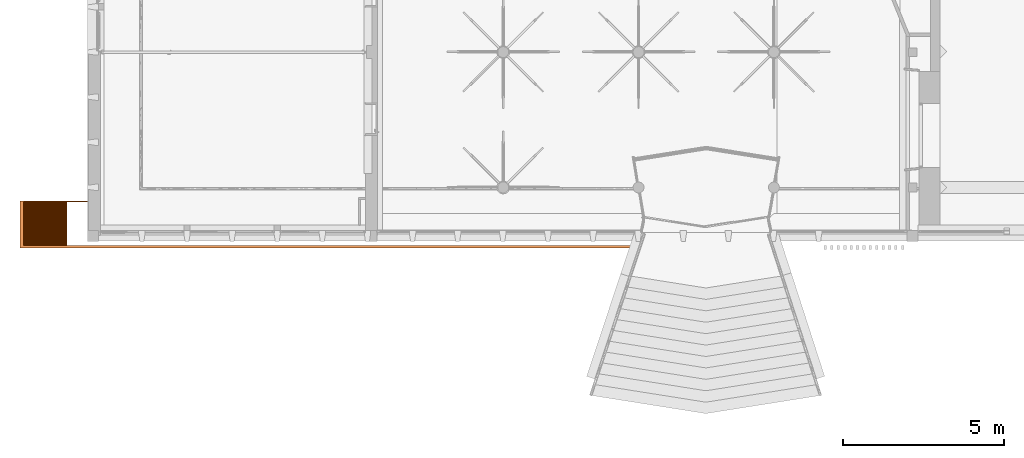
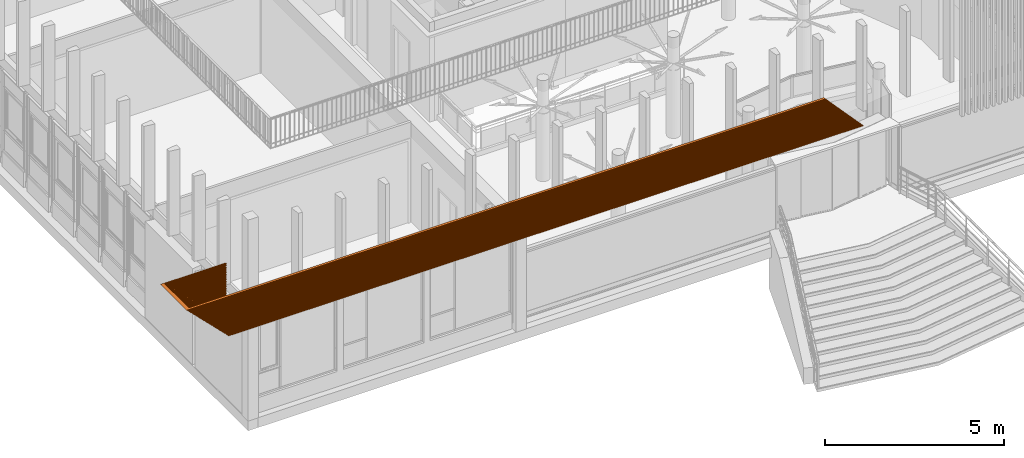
# One storey, part 65 of 65: 1 proxy.
"""IFC4 building model written with IfcOpenShell, lengths in metres."""

from ifc_helpers import new_model, entity, si_unit, converted_unit, derived_unit, direction, frame, origin, place, context, subcontext, project, spatial, polygons, source, transform, mapped, material, type_object, type_shapes, element, save


model = new_model("IFC4")

# Units and contexts
model_context = context("Model", 3, precision=1e-05, world=origin(), true_north=direction((6.12303176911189e-17, 1.0)))
body_context = subcontext(model_context, "Body", "Model", "MODEL_VIEW")
ifc_project = project(units=[si_unit("LENGTHUNIT", "METRE"), si_unit("AREAUNIT", "SQUARE_METRE"), si_unit("VOLUMEUNIT", "CUBIC_METRE"), converted_unit("PLANEANGLEUNIT", "DEGREE", entity("IfcRatioMeasure", 0.0174532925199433), si_unit("PLANEANGLEUNIT", "RADIAN"), dimensions=[0, 0, 0, 0, 0, 0, 0]), si_unit("MASSUNIT", "GRAM", prefix="KILO"), derived_unit("MASSDENSITYUNIT", [(si_unit("MASSUNIT", "GRAM", prefix="KILO"), 1), (si_unit("LENGTHUNIT", "METRE"), -3)]), derived_unit("MOMENTOFINERTIAUNIT", [(si_unit("LENGTHUNIT", "METRE"), 4)]), si_unit("TIMEUNIT", "SECOND"), si_unit("FREQUENCYUNIT", "HERTZ"), si_unit("THERMODYNAMICTEMPERATUREUNIT", "DEGREE_CELSIUS"), derived_unit("THERMALTRANSMITTANCEUNIT", [(si_unit("MASSUNIT", "GRAM", prefix="KILO"), 1), (si_unit("THERMODYNAMICTEMPERATUREUNIT", "KELVIN"), -1), (si_unit("TIMEUNIT", "SECOND"), -3)]), derived_unit("VOLUMETRICFLOWRATEUNIT", [(si_unit("LENGTHUNIT", "METRE"), 3), (si_unit("TIMEUNIT", "SECOND"), -1)]), si_unit("ELECTRICCURRENTUNIT", "AMPERE"), si_unit("ELECTRICVOLTAGEUNIT", "VOLT"), si_unit("POWERUNIT", "WATT"), si_unit("FORCEUNIT", "NEWTON", prefix="KILO"), si_unit("ILLUMINANCEUNIT", "LUX"), si_unit("LUMINOUSFLUXUNIT", "LUMEN"), si_unit("LUMINOUSINTENSITYUNIT", "CANDELA"), derived_unit("USERDEFINED", [(si_unit("MASSUNIT", "GRAM", prefix="KILO"), -1), (si_unit("LENGTHUNIT", "METRE"), -2), (si_unit("TIMEUNIT", "SECOND"), 3), (si_unit("LUMINOUSFLUXUNIT", "LUMEN"), 1)]), derived_unit("LINEARVELOCITYUNIT", [(si_unit("LENGTHUNIT", "METRE"), 1), (si_unit("TIMEUNIT", "SECOND"), -1)]), si_unit("PRESSUREUNIT", "PASCAL"), derived_unit("USERDEFINED", [(si_unit("LENGTHUNIT", "METRE"), -2), (si_unit("MASSUNIT", "GRAM", prefix="KILO"), 1), (si_unit("TIMEUNIT", "SECOND"), -2)]), derived_unit("LINEARFORCEUNIT", [(si_unit("MASSUNIT", "GRAM", prefix="KILO"), 1), (si_unit("LENGTHUNIT", "METRE"), 1), (si_unit("TIMEUNIT", "SECOND"), -2), (si_unit("LENGTHUNIT", "METRE"), -1)]), derived_unit("PLANARFORCEUNIT", [(si_unit("MASSUNIT", "GRAM", prefix="KILO"), 1), (si_unit("LENGTHUNIT", "METRE"), 1), (si_unit("TIMEUNIT", "SECOND"), -2), (si_unit("LENGTHUNIT", "METRE"), -2)])], contexts=[model_context])

# Site, building, storey
site_placement = place(None, origin())
site = spatial("IfcSite", under=ifc_project, at=site_placement, Name="Default", CompositionType="ELEMENT")
building_placement = place(site_placement, origin())
building = spatial("IfcBuilding", under=site, at=building_placement, Name="HOTEL CONSULAIRE BOULOGNE SUR MER", CompositionType="ELEMENT")
storey_placement = place(building_placement, origin())
storey = spatial("IfcBuildingStorey", under=building, at=storey_placement, Name="Niveau 0", CompositionType="ELEMENT", Elevation=1.31981936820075e-13)

# Proxy
ifc_material = material(Name="alu finifion bleu")
building_element_proxy_type = type_object("IfcBuildingElementProxyType", Name="eléments de façade 3:eléments de façade 3", PredefinedType="NOTDEFINED", material=ifc_material)
shared_shape = source(origin(), body_context, "Body", "Tessellation", [
    polygons([(21.7828581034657, 0.0791437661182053, 0.0300000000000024), (21.8101751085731, 0.0791437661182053, 5.41433564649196e-16), (1.4624379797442, 0.0791437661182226, 0.0), (1.4324379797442, 0.0791437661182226, 0.0300000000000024), (2.09950853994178, 1.4652947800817, 0.0), (2.09950853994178, 1.4652947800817, 0.0300000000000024), (2.09950853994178, 1.42731639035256, 0.0300000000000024), (2.09950853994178, 1.42731639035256, 0.0), (1.4324379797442, 1.42731639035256, 0.0300000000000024), (1.46243797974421, 1.42731639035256, 0.0), (1.32000000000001, 8.66293703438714e-14, 0.0300000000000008), (1.35000000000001, 8.66293703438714e-14, 0.0), (21.8101751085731, 0.0, 0.0), (21.7828581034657, 0.0, 0.0300000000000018), (1.35000000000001, 1.4652947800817, 0.0), (1.32000000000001, 1.4652947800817, 0.0300000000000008)], [[[3, 4, 1, 2]], [[6, 5, 15, 16]], [[8, 5, 6, 7]], [[7, 9, 10, 8]], [[11, 12, 13, 14]], [[12, 11, 16, 15]], [[12, 15, 5, 8, 10, 3, 2, 13]], [[14, 13, 2, 1]], [[14, 1, 4, 9, 7, 6, 16, 11]], [[4, 3, 10, 9]]], closed=True),
    polygons([(20.5809098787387, 4.33146851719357e-15, 1.35000000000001), (2.16573425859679e-15, 9.0960838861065e-14, 1.35000000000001), (0.0300000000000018, 9.0960838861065e-14, 1.32000000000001), (20.6082268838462, 4.33146851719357e-15, 1.32000000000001), (0.0300000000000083, 1.46529478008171, 1.32000000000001), (6.49720277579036e-15, 1.46529478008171, 1.35000000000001), (2.09950853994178, 1.4652947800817, 1.35000000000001), (2.09950853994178, 1.4652947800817, 1.32000000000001), (0.142437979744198, 1.42731639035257, 1.32000000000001), (0.112437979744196, 1.42731639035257, 1.35000000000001), (0.112437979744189, 0.079143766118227, 1.35000000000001), (0.142437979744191, 0.079143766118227, 1.32000000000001), (20.5809098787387, 0.0791437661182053, 1.35000000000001), (2.09950853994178, 1.42731639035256, 1.35000000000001), (2.09950853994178, 1.42731639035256, 1.32000000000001), (20.6082268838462, 0.0791437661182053, 1.32000000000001)], [[[2, 3, 4, 1]], [[14, 10, 9, 15]], [[7, 8, 5, 6]], [[12, 11, 13, 16]], [[12, 9, 10, 11]], [[1, 13, 11, 10, 14, 7, 6, 2]], [[3, 2, 6, 5]], [[3, 5, 8, 15, 9, 12, 16, 4]], [[1, 4, 16, 13]], [[15, 8, 7, 14]]], closed=True),
    polygons([(20.6355438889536, 4.33146851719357e-15, 1.29000000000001), (0.0600000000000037, 9.0960838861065e-14, 1.29000000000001), (0.0900000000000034, 9.0960838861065e-14, 1.26000000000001), (20.662860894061, 4.33146851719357e-15, 1.26000000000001), (0.0900000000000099, 1.46529478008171, 1.26000000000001), (0.0600000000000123, 1.46529478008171, 1.29000000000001), (2.09950853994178, 1.4652947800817, 1.29000000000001), (2.09950853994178, 1.4652947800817, 1.26000000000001), (20.6355438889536, 0.0791437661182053, 1.29000000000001), (20.662860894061, 0.0791437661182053, 1.26000000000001), (0.202437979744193, 0.0791437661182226, 1.26000000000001), (0.172437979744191, 0.0791437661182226, 1.29000000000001), (2.09950853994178, 1.42731639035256, 1.29000000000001), (2.09950853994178, 1.42731639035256, 1.26000000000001), (0.1724379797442, 1.42731639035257, 1.29000000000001), (0.202437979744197, 1.42731639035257, 1.26000000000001)], [[[2, 3, 4, 1]], [[13, 15, 16, 14]], [[7, 8, 5, 6]], [[11, 12, 9, 10]], [[14, 8, 7, 13]], [[11, 16, 15, 12]], [[1, 9, 12, 15, 13, 7, 6, 2]], [[3, 2, 6, 5]], [[3, 5, 8, 14, 16, 11, 10, 4]], [[1, 4, 10, 9]]], closed=True),
    polygons([(20.6901778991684, 4.33146851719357e-15, 1.23000000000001), (0.120000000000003, 9.0960838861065e-14, 1.23000000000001), (0.150000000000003, 9.0960838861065e-14, 1.20000000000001), (20.7174949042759, 4.33146851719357e-15, 1.20000000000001), (0.150000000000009, 1.46529478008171, 1.20000000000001), (0.120000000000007, 1.46529478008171, 1.23000000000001), (2.09950853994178, 1.4652947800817, 1.23000000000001), (2.09950853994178, 1.4652947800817, 1.20000000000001), (20.6901778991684, 0.0791437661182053, 1.23000000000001), (20.7174949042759, 0.0791437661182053, 1.20000000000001), (0.262437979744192, 0.0791437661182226, 1.20000000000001), (0.232437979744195, 0.0791437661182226, 1.23000000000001), (2.09950853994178, 1.42731639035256, 1.23000000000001), (2.09950853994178, 1.42731639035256, 1.20000000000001), (0.232437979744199, 1.42731639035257, 1.23000000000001), (0.262437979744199, 1.42731639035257, 1.20000000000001)], [[[2, 3, 4, 1]], [[13, 15, 16, 14]], [[7, 8, 5, 6]], [[11, 12, 9, 10]], [[14, 8, 7, 13]], [[11, 16, 15, 12]], [[1, 9, 12, 15, 13, 7, 6, 2]], [[3, 2, 6, 5]], [[3, 5, 8, 14, 16, 11, 10, 4]], [[1, 4, 10, 9]]], closed=True),
    polygons([(20.7448119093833, 4.33146851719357e-15, 1.17000000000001), (0.180000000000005, 9.0960838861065e-14, 1.17000000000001), (0.210000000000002, 9.0960838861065e-14, 1.14000000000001), (20.7721289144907, 4.33146851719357e-15, 1.14000000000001), (0.210000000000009, 1.46529478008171, 1.14000000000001), (0.180000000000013, 1.46529478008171, 1.17000000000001), (2.09950853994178, 1.4652947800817, 1.17000000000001), (2.09950853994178, 1.4652947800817, 1.14000000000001), (20.7448119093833, 0.0791437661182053, 1.17000000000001), (20.7721289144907, 0.0791437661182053, 1.14000000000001), (0.322437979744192, 0.0791437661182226, 1.14000000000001), (0.292437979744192, 0.0791437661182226, 1.17000000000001), (2.09950853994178, 1.42731639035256, 1.17000000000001), (2.09950853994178, 1.42731639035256, 1.14000000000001), (0.292437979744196, 1.42731639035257, 1.17000000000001), (0.322437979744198, 1.42731639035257, 1.14000000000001)], [[[2, 3, 4, 1]], [[13, 15, 16, 14]], [[7, 8, 5, 6]], [[11, 12, 9, 10]], [[14, 8, 7, 13]], [[11, 16, 15, 12]], [[1, 9, 12, 15, 13, 7, 6, 2]], [[3, 2, 6, 5]], [[3, 5, 8, 14, 16, 11, 10, 4]], [[1, 4, 10, 9]]], closed=True),
    polygons([(20.7994459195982, 4.33146851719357e-15, 1.11000000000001), (0.240000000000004, 9.0960838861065e-14, 1.11000000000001), (0.270000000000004, 9.0960838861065e-14, 1.08000000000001), (20.8267629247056, 4.33146851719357e-15, 1.08000000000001), (0.27000000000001, 1.46529478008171, 1.08000000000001), (0.240000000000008, 1.46529478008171, 1.11000000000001), (2.09950853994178, 1.4652947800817, 1.11000000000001), (2.09950853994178, 1.4652947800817, 1.08000000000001), (20.7994459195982, 0.0791437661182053, 1.11000000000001), (20.8267629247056, 0.0791437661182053, 1.08000000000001), (0.382437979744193, 0.0791437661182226, 1.08000000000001), (0.352437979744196, 0.0791437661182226, 1.11000000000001), (2.09950853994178, 1.42731639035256, 1.11000000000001), (2.09950853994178, 1.42731639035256, 1.08000000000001), (0.352437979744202, 1.42731639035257, 1.11000000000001), (0.3824379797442, 1.42731639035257, 1.08000000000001)], [[[2, 3, 4, 1]], [[13, 15, 16, 14]], [[7, 8, 5, 6]], [[11, 12, 9, 10]], [[14, 8, 7, 13]], [[11, 16, 15, 12]], [[1, 9, 12, 15, 13, 7, 6, 2]], [[3, 2, 6, 5]], [[3, 5, 8, 14, 16, 11, 10, 4]], [[1, 4, 10, 9]]], closed=True),
    polygons([(20.854079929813, 4.33146851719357e-15, 1.05000000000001), (0.300000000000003, 9.0960838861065e-14, 1.05000000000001), (0.330000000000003, 9.0960838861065e-14, 1.02000000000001), (20.8813969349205, 4.33146851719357e-15, 1.02000000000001), (0.330000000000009, 1.46529478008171, 1.02000000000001), (0.300000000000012, 1.46529478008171, 1.05000000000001), (2.09950853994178, 1.4652947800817, 1.05000000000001), (2.09950853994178, 1.4652947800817, 1.02000000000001), (20.854079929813, 0.0791437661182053, 1.05000000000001), (20.8813969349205, 0.0791437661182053, 1.02000000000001), (0.442437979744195, 0.0791437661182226, 1.02000000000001), (0.412437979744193, 0.0791437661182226, 1.05000000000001), (2.09950853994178, 1.42731639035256, 1.05000000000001), (2.09950853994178, 1.42731639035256, 1.02000000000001), (0.412437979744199, 1.42731639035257, 1.05000000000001), (0.442437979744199, 1.42731639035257, 1.02000000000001)], [[[2, 3, 4, 1]], [[13, 15, 16, 14]], [[7, 8, 5, 6]], [[11, 12, 9, 10]], [[14, 8, 7, 13]], [[11, 16, 15, 12]], [[1, 9, 12, 15, 13, 7, 6, 2]], [[3, 2, 6, 5]], [[3, 5, 8, 14, 16, 11, 10, 4]], [[1, 4, 10, 9]]], closed=True),
    polygons([(20.9087139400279, 4.33146851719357e-15, 0.990000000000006), (0.360000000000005, 9.0960838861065e-14, 0.990000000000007), (0.390000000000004, 9.0960838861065e-14, 0.960000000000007), (20.9360309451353, 4.33146851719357e-15, 0.960000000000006), (0.390000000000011, 1.46529478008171, 0.960000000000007), (0.360000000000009, 1.46529478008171, 0.990000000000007), (2.09950853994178, 1.4652947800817, 0.990000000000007), (2.09950853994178, 1.4652947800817, 0.960000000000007), (20.9087139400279, 0.0791437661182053, 0.990000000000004), (20.9360309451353, 0.0791437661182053, 0.960000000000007), (0.502437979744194, 0.0791437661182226, 0.960000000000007), (0.472437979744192, 0.0791437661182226, 0.990000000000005), (2.09950853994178, 1.42731639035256, 0.990000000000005), (2.09950853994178, 1.42731639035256, 0.960000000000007), (0.472437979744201, 1.42731639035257, 0.990000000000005), (0.502437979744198, 1.42731639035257, 0.960000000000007)], [[[2, 3, 4, 1]], [[13, 15, 16, 14]], [[7, 8, 5, 6]], [[11, 12, 9, 10]], [[14, 8, 7, 13]], [[12, 11, 16, 15]], [[1, 9, 12, 15, 13, 7, 6, 2]], [[3, 2, 6, 5]], [[3, 5, 8, 14, 16, 11, 10, 4]], [[1, 4, 10, 9]]], closed=True),
    polygons([(20.9633479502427, 4.33146851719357e-15, 0.930000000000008), (0.420000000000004, 9.0960838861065e-14, 0.930000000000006), (0.450000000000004, 9.0960838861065e-14, 0.900000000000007), (20.9906649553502, 4.33146851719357e-15, 0.900000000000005), (0.45000000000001, 1.46529478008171, 0.900000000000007), (0.420000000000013, 1.46529478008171, 0.930000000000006), (2.09950853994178, 1.4652947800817, 0.930000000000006), (2.09950853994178, 1.4652947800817, 0.900000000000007), (20.9633479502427, 0.0791437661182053, 0.930000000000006), (20.9906649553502, 0.0791437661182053, 0.900000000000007), (0.562437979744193, 0.0791437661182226, 0.900000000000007), (0.532437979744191, 0.0791437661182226, 0.930000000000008), (2.09950853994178, 1.42731639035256, 0.930000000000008), (2.09950853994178, 1.42731639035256, 0.900000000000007), (0.532437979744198, 1.42731639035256, 0.930000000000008), (0.5624379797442, 1.42731639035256, 0.900000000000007)], [[[2, 3, 4, 1]], [[13, 15, 16, 14]], [[7, 8, 5, 6]], [[11, 12, 9, 10]], [[14, 8, 7, 13]], [[11, 16, 15, 12]], [[1, 9, 12, 15, 13, 7, 6, 2]], [[3, 2, 6, 5]], [[3, 5, 8, 14, 16, 11, 10, 4]], [[1, 4, 10, 9]]], closed=True),
    polygons([(21.0179819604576, 4.33146851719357e-15, 0.870000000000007), (0.480000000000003, 9.0960838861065e-14, 0.870000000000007), (0.510000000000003, 9.0960838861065e-14, 0.840000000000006), (21.045298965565, 4.33146851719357e-15, 0.840000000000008), (0.51000000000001, 1.46529478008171, 0.840000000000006), (0.48000000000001, 1.46529478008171, 0.870000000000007), (2.09950853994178, 1.4652947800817, 0.870000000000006), (2.09950853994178, 1.4652947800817, 0.840000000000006), (21.0179819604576, 0.0791437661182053, 0.870000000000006), (21.045298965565, 0.0791437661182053, 0.840000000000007), (0.622437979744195, 0.0791437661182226, 0.840000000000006), (0.592437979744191, 0.0791437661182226, 0.870000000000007), (2.09950853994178, 1.42731639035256, 0.870000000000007), (2.09950853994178, 1.42731639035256, 0.840000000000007), (0.592437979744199, 1.42731639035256, 0.870000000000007), (0.622437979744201, 1.42731639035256, 0.840000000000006)], [[[2, 3, 4, 1]], [[13, 15, 16, 14]], [[7, 8, 5, 6]], [[11, 12, 9, 10]], [[14, 8, 7, 13]], [[11, 16, 15, 12]], [[1, 9, 12, 15, 13, 7, 6, 2]], [[3, 2, 6, 5]], [[3, 5, 8, 14, 16, 11, 10, 4]], [[1, 4, 10, 9]]], closed=True),
    polygons([(21.0726159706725, 4.33146851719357e-15, 0.810000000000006), (0.540000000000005, 9.0960838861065e-14, 0.810000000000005), (0.570000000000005, 9.0960838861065e-14, 0.780000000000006), (21.0999329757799, 4.33146851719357e-15, 0.780000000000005), (0.570000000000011, 1.46529478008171, 0.780000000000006), (0.540000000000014, 1.46529478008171, 0.810000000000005), (2.09950853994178, 1.4652947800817, 0.810000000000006), (2.09950853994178, 1.4652947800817, 0.780000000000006), (21.0726159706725, 0.0791437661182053, 0.81000000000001), (21.0999329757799, 0.0791437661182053, 0.780000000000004), (0.682437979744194, 0.0791437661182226, 0.780000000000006), (0.652437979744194, 0.0791437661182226, 0.810000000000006), (2.09950853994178, 1.42731639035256, 0.810000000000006), (2.09950853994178, 1.42731639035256, 0.780000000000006), (0.652437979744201, 1.42731639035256, 0.810000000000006), (0.682437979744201, 1.42731639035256, 0.780000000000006)], [[[2, 3, 4, 1]], [[13, 15, 16, 14]], [[7, 8, 5, 6]], [[11, 12, 9, 10]], [[8, 7, 13, 14]], [[12, 11, 16, 15]], [[1, 9, 12, 15, 13, 7, 6, 2]], [[3, 2, 6, 5]], [[3, 5, 8, 14, 16, 11, 10, 4]], [[1, 4, 10, 9]]], closed=True),
    polygons([(21.1272499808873, 4.33146851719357e-15, 0.750000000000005), (0.600000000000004, 9.0960838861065e-14, 0.750000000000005), (0.630000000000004, 9.0960838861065e-14, 0.720000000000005), (21.1545669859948, 4.33146851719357e-15, 0.720000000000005), (0.630000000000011, 1.46529478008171, 0.720000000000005), (0.600000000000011, 1.46529478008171, 0.750000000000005), (2.09950853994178, 1.4652947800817, 0.750000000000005), (2.09950853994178, 1.4652947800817, 0.720000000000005), (21.1272499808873, 0.0791437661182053, 0.750000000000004), (21.1545669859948, 0.0791437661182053, 0.720000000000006), (0.742437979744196, 0.0791437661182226, 0.720000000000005), (0.712437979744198, 0.0791437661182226, 0.750000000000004), (2.09950853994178, 1.42731639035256, 0.750000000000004), (2.09950853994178, 1.42731639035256, 0.720000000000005), (0.712437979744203, 1.42731639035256, 0.750000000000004), (0.7424379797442, 1.42731639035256, 0.720000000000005)], [[[2, 3, 4, 1]], [[13, 15, 16, 14]], [[7, 8, 5, 6]], [[11, 12, 9, 10]], [[8, 7, 13, 14]], [[12, 11, 16, 15]], [[1, 9, 12, 15, 13, 7, 6, 2]], [[3, 2, 6, 5]], [[3, 5, 8, 14, 16, 11, 10, 4]], [[1, 4, 10, 9]]], closed=True),
    polygons([(21.1818839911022, 4.33146851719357e-15, 0.690000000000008), (0.660000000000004, 9.0960838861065e-14, 0.690000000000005), (0.690000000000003, 9.0960838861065e-14, 0.660000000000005), (21.2092009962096, 4.33146851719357e-15, 0.660000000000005), (0.69000000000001, 1.46529478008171, 0.660000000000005), (0.66000000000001, 1.46529478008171, 0.690000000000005), (2.09950853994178, 1.4652947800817, 0.690000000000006), (2.09950853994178, 1.4652947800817, 0.660000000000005), (21.1818839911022, 0.0791437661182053, 0.690000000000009), (21.2092009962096, 0.0791437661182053, 0.660000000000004), (0.802437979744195, 0.0791437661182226, 0.660000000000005), (0.772437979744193, 0.0791437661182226, 0.690000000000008), (2.09950853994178, 1.42731639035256, 0.690000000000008), (2.09950853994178, 1.42731639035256, 0.660000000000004), (0.772437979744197, 1.42731639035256, 0.690000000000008), (0.802437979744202, 1.42731639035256, 0.660000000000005)], [[[2, 3, 4, 1]], [[13, 15, 16, 14]], [[7, 8, 5, 6]], [[11, 12, 9, 10]], [[8, 7, 13, 14]], [[12, 11, 16, 15]], [[1, 9, 12, 15, 13, 7, 6, 2]], [[3, 2, 6, 5]], [[3, 5, 8, 14, 16, 11, 10, 4]], [[1, 4, 10, 9]]], closed=True),
    polygons([(21.2365180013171, 4.33146851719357e-15, 0.630000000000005), (0.720000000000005, 9.0960838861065e-14, 0.630000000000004), (0.750000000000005, 9.0960838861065e-14, 0.600000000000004), (21.2638350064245, 4.33146851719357e-15, 0.600000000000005), (0.750000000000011, 1.46529478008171, 0.600000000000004), (0.72000000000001, 1.46529478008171, 0.630000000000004), (2.09950853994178, 1.4652947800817, 0.630000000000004), (2.09950853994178, 1.4652947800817, 0.600000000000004), (21.2365180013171, 0.0791437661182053, 0.630000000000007), (21.2638350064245, 0.0791437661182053, 0.600000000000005), (0.862437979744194, 0.0791437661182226, 0.600000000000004), (0.832437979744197, 0.0791437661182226, 0.630000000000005), (2.09950853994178, 1.42731639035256, 0.630000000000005), (2.09950853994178, 1.42731639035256, 0.600000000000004), (0.832437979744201, 1.42731639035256, 0.630000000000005), (0.862437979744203, 1.42731639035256, 0.600000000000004)], [[[2, 3, 4, 1]], [[13, 15, 16, 14]], [[7, 8, 5, 6]], [[11, 12, 9, 10]], [[8, 7, 13, 14]], [[11, 16, 15, 12]], [[1, 9, 12, 15, 13, 7, 6, 2]], [[3, 2, 6, 5]], [[3, 5, 8, 14, 16, 11, 10, 4]], [[1, 4, 10, 9]]], closed=True),
    polygons([(21.2911520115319, 4.33146851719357e-15, 0.570000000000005), (0.780000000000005, 9.0960838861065e-14, 0.570000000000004), (0.810000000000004, 9.0960838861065e-14, 0.540000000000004), (21.3184690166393, 4.33146851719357e-15, 0.540000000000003), (0.810000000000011, 1.46529478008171, 0.540000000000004), (0.780000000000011, 1.46529478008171, 0.570000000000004), (2.09950853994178, 1.4652947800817, 0.570000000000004), (2.09950853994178, 1.4652947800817, 0.540000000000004), (21.2911520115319, 0.0791437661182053, 0.570000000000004), (21.3184690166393, 0.0791437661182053, 0.540000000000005), (0.922437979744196, 0.0791437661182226, 0.540000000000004), (0.892437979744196, 0.0791437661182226, 0.570000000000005), (2.09950853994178, 1.42731639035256, 0.570000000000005), (2.09950853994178, 1.42731639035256, 0.540000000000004), (0.892437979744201, 1.42731639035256, 0.570000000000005), (0.922437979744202, 1.42731639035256, 0.540000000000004)], [[[2, 3, 4, 1]], [[13, 15, 16, 14]], [[7, 8, 5, 6]], [[11, 12, 9, 10]], [[14, 8, 7, 13]], [[11, 16, 15, 12]], [[1, 9, 12, 15, 13, 7, 6, 2]], [[3, 2, 6, 5]], [[3, 5, 8, 14, 16, 11, 10, 4]], [[1, 4, 10, 9]]], closed=True),
    polygons([(21.3457860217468, 4.33146851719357e-15, 0.510000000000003), (0.840000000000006, 9.0960838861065e-14, 0.510000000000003), (0.870000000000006, 8.66293703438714e-14, 0.480000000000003), (21.3731030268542, 4.33146851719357e-15, 0.480000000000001), (0.870000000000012, 1.4652947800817, 0.480000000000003), (0.840000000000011, 1.46529478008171, 0.510000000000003), (2.09950853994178, 1.4652947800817, 0.510000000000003), (2.09950853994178, 1.4652947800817, 0.480000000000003), (21.3457860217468, 0.0791437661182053, 0.510000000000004), (21.3731030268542, 0.0791437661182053, 0.480000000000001), (0.982437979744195, 0.0791437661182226, 0.480000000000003), (0.952437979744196, 0.0791437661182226, 0.510000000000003), (2.09950853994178, 1.42731639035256, 0.510000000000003), (2.09950853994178, 1.42731639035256, 0.480000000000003), (0.952437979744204, 1.42731639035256, 0.510000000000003), (0.982437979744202, 1.42731639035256, 0.480000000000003)], [[[2, 3, 4, 1]], [[13, 15, 16, 14]], [[7, 8, 5, 6]], [[11, 12, 9, 10]], [[8, 7, 13, 14]], [[11, 16, 15, 12]], [[1, 9, 12, 15, 13, 7, 6, 2]], [[3, 2, 6, 5]], [[3, 5, 8, 14, 16, 11, 10, 4]], [[1, 4, 10, 9]]], closed=True),
    polygons([(21.4004200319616, 4.33146851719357e-15, 0.450000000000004), (0.900000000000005, 8.66293703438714e-14, 0.450000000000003), (0.930000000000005, 8.66293703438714e-14, 0.420000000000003), (21.4277370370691, 0.0, 0.420000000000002), (0.930000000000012, 1.4652947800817, 0.420000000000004), (0.900000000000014, 1.4652947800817, 0.450000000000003), (2.09950853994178, 1.4652947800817, 0.450000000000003), (2.09950853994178, 1.4652947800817, 0.420000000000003), (21.4004200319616, 0.0791437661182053, 0.450000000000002), (21.4277370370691, 0.0791437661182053, 0.420000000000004), (1.0424379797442, 0.0791437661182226, 0.420000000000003), (1.01243797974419, 0.0791437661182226, 0.450000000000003), (2.09950853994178, 1.42731639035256, 0.450000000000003), (2.09950853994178, 1.42731639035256, 0.420000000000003), (1.0124379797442, 1.42731639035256, 0.450000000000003), (1.0424379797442, 1.42731639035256, 0.420000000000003)], [[[2, 3, 4, 1]], [[13, 15, 16, 14]], [[7, 8, 5, 6]], [[11, 12, 9, 10]], [[14, 8, 7, 13]], [[12, 11, 16, 15]], [[1, 9, 12, 15, 13, 7, 6, 2]], [[3, 2, 6, 5]], [[3, 5, 8, 14, 16, 11, 10, 4]], [[1, 4, 10, 9]]], closed=True),
    polygons([(21.4550540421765, 0.0, 0.390000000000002), (0.960000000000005, 8.66293703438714e-14, 0.390000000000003), (0.990000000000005, 8.66293703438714e-14, 0.360000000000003), (21.4823710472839, 0.0, 0.360000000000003), (0.990000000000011, 1.4652947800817, 0.360000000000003), (0.960000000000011, 1.4652947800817, 0.390000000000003), (2.09950853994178, 1.4652947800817, 0.390000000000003), (2.09950853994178, 1.4652947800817, 0.360000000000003), (21.4550540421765, 0.0791437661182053, 0.390000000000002), (21.4823710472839, 0.0791437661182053, 0.360000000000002), (1.1024379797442, 0.0791437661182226, 0.360000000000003), (1.07243797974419, 0.0791437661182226, 0.390000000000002), (2.09950853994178, 1.42731639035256, 0.390000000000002), (2.09950853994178, 1.42731639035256, 0.360000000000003), (1.0724379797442, 1.42731639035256, 0.390000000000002), (1.1024379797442, 1.42731639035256, 0.360000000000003)], [[[2, 3, 4, 1]], [[13, 15, 16, 14]], [[7, 8, 5, 6]], [[11, 12, 9, 10]], [[14, 8, 7, 13]], [[11, 16, 15, 12]], [[1, 9, 12, 15, 13, 7, 6, 2]], [[3, 2, 6, 5]], [[3, 5, 8, 14, 16, 11, 10, 4]], [[1, 4, 10, 9]]], closed=True),
    polygons([(21.5096880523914, 0.0, 0.330000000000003), (1.02000000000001, 8.66293703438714e-14, 0.330000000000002), (1.05000000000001, 8.66293703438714e-14, 0.300000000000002), (21.5370050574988, 0.0, 0.300000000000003), (1.05000000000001, 1.4652947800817, 0.300000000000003), (1.02000000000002, 1.4652947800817, 0.330000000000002), (2.09950853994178, 1.4652947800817, 0.330000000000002), (2.09950853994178, 1.4652947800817, 0.300000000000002), (21.5096880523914, 0.0791437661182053, 0.330000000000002), (21.5370050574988, 0.0791437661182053, 0.300000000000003), (1.1624379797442, 0.0791437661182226, 0.300000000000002), (1.1324379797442, 0.0791437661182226, 0.330000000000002), (2.09950853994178, 1.42731639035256, 0.330000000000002), (2.09950853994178, 1.42731639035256, 0.300000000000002), (1.1324379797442, 1.42731639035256, 0.330000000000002), (1.1624379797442, 1.42731639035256, 0.300000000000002)], [[[2, 3, 4, 1]], [[13, 15, 16, 14]], [[7, 8, 5, 6]], [[11, 12, 9, 10]], [[14, 8, 7, 13]], [[12, 11, 16, 15]], [[1, 9, 12, 15, 13, 7, 6, 2]], [[3, 2, 6, 5]], [[3, 5, 8, 14, 16, 11, 10, 4]], [[1, 4, 10, 9]]], closed=True),
    polygons([(21.5643220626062, 0.0, 0.270000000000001), (1.08000000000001, 8.66293703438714e-14, 0.270000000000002), (1.11000000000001, 8.66293703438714e-14, 0.240000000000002), (21.5916390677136, 0.0, 0.240000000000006), (1.11000000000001, 1.4652947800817, 0.240000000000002), (1.08000000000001, 1.4652947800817, 0.270000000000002), (2.09950853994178, 1.4652947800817, 0.270000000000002), (2.09950853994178, 1.4652947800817, 0.240000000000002), (21.5643220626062, 0.0791437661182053, 0.270000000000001), (21.5916390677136, 0.0791437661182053, 0.240000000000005), (1.2224379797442, 0.0791437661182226, 0.240000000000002), (1.1924379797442, 0.0791437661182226, 0.270000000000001), (2.09950853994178, 1.42731639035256, 0.270000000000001), (2.09950853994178, 1.42731639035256, 0.240000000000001), (1.1924379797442, 1.42731639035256, 0.270000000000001), (1.2224379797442, 1.42731639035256, 0.240000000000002)], [[[2, 3, 4, 1]], [[13, 15, 16, 14]], [[7, 8, 5, 6]], [[11, 12, 9, 10]], [[14, 8, 7, 13]], [[11, 16, 15, 12]], [[1, 9, 12, 15, 13, 7, 6, 2]], [[3, 2, 6, 5]], [[3, 5, 8, 14, 16, 11, 10, 4]], [[1, 4, 10, 9]]], closed=True),
    polygons([(21.6189560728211, 0.0, 0.21), (1.14000000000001, 8.66293703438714e-14, 0.210000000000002), (1.17, 8.66293703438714e-14, 0.180000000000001), (21.6462730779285, 0.0, 0.18), (1.17000000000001, 1.4652947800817, 0.180000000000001), (1.14000000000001, 1.4652947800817, 0.210000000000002), (2.09950853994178, 1.4652947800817, 0.210000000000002), (2.09950853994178, 1.4652947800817, 0.180000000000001), (21.6189560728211, 0.0791437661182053, 0.21), (21.6462730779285, 0.0791437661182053, 0.180000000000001), (1.2824379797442, 0.0791437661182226, 0.180000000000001), (1.2524379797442, 0.0791437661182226, 0.21), (2.09950853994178, 1.42731639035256, 0.21), (2.09950853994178, 1.42731639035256, 0.180000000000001), (1.25243797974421, 1.42731639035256, 0.21), (1.28243797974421, 1.42731639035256, 0.180000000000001)], [[[2, 3, 4, 1]], [[13, 15, 16, 14]], [[7, 8, 5, 6]], [[11, 12, 9, 10]], [[14, 8, 7, 13]], [[11, 16, 15, 12]], [[1, 9, 12, 15, 13, 7, 6, 2]], [[3, 2, 6, 5]], [[3, 5, 8, 14, 16, 11, 10, 4]], [[1, 4, 10, 9]]], closed=True),
    polygons([(21.6735900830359, 0.0, 0.150000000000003), (1.20000000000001, 8.66293703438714e-14, 0.150000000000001), (1.23000000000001, 8.66293703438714e-14, 0.120000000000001), (21.7009070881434, 0.0, 0.119999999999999), (1.23000000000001, 1.4652947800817, 0.12), (1.20000000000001, 1.4652947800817, 0.150000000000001), (2.09950853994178, 1.4652947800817, 0.150000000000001), (2.09950853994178, 1.4652947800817, 0.120000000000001), (21.6735900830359, 0.0791437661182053, 0.150000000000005), (21.7009070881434, 0.0791437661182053, 0.119999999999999), (1.3424379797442, 0.0791437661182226, 0.120000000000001), (1.3124379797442, 0.0791437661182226, 0.150000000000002), (2.09950853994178, 1.42731639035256, 0.150000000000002), (2.09950853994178, 1.42731639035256, 0.120000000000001), (1.3124379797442, 1.42731639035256, 0.150000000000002), (1.3424379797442, 1.42731639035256, 0.120000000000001)], [[[2, 3, 4, 1]], [[13, 15, 16, 14]], [[7, 8, 5, 6]], [[11, 12, 9, 10]], [[14, 8, 7, 13]], [[11, 16, 15, 12]], [[1, 9, 12, 15, 13, 7, 6, 2]], [[3, 2, 6, 5]], [[3, 5, 8, 14, 16, 11, 10, 4]], [[1, 4, 10, 9]]], closed=True),
    polygons([(21.7282240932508, 0.0, 0.0900000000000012), (1.26000000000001, 8.66293703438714e-14, 0.0900000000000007), (1.29000000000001, 8.66293703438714e-14, 0.0600000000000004), (21.7555410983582, 0.0, 0.0599999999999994), (1.29000000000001, 1.4652947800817, 0.060000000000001), (1.26000000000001, 1.4652947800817, 0.0900000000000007), (2.09950853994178, 1.4652947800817, 0.0900000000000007), (2.09950853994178, 1.4652947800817, 0.0600000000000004), (21.7282240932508, 0.0791437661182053, 0.0900000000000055), (21.7555410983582, 0.0791437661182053, 0.0599999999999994), (1.4024379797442, 0.0791437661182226, 0.0600000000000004), (1.3724379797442, 0.0791437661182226, 0.0900000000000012), (2.09950853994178, 1.42731639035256, 0.0900000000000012), (2.09950853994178, 1.42731639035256, 0.0599999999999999), (1.3724379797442, 1.42731639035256, 0.0900000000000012), (1.4024379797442, 1.42731639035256, 0.0600000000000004)], [[[2, 3, 4, 1]], [[13, 15, 16, 14]], [[7, 8, 5, 6]], [[11, 12, 9, 10]], [[14, 8, 7, 13]], [[11, 16, 15, 12]], [[1, 9, 12, 15, 13, 7, 6, 2]], [[3, 2, 6, 5]], [[3, 5, 8, 14, 16, 11, 10, 4]], [[1, 4, 10, 9]]], closed=True),
])
type_shapes(building_element_proxy_type, [shared_shape])
proxy_placement = place(storey_placement, frame((-16.2234892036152, -30.0969890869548, 3.06313951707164)))
element("IfcBuildingElementProxy", 1, at=proxy_placement, inside=storey, type_object=building_element_proxy_type, material=ifc_material, Name="eléments de façade 3:eléments de façade 3", ObjectType="eléments de façade 3:eléments de façade 3", PredefinedType="NOTDEFINED", context=body_context, shape_type="MappedRepresentation", body=[
    mapped(shared_shape, transform((0.0, 0.0, 0.0), scale=1.0)),
])

save(model, "model.ifc")
